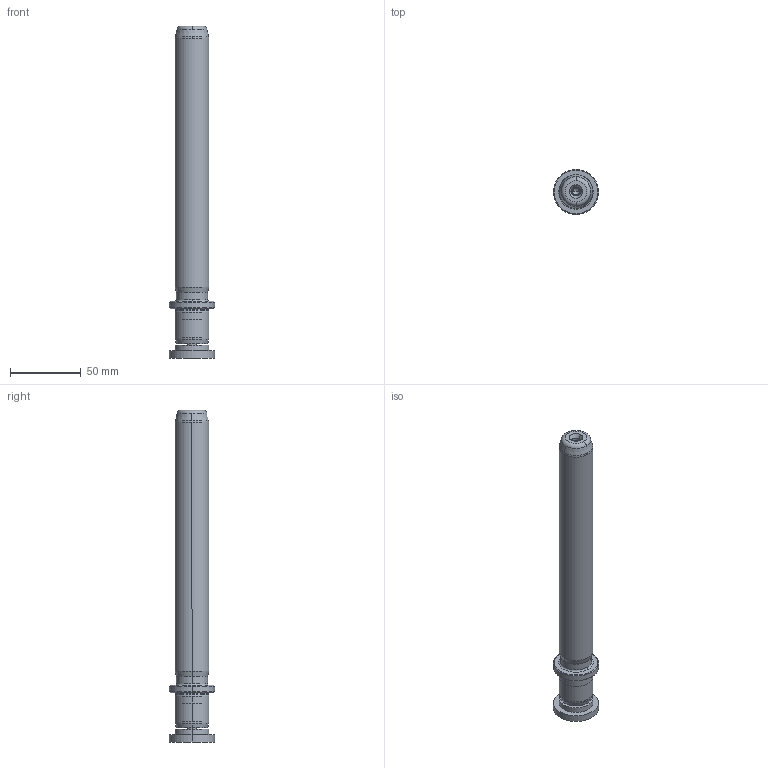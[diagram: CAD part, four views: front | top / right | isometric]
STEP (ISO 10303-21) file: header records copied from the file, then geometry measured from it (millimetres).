
FILE_DESCRIPTION((''),'2;1');
FILE_NAME('P22_024_200.stp','2009-02-02T15:31:35',(''),(''),'Mechanical Desktop 2009','Mechanical Desktop 2009',', , ');
FILE_SCHEMA(('CONFIG_CONTROL_DESIGN'));
Length unit declared in the file: millimetre
Products named in the file (2): Product; blmdl1
Assembly tree (1 placements, depth 2):
  Product
    blmdl1
Bounding box: 32 x 32 x 235 mm (x, y, z)
Volume: 106936 mm3; surface area: 22300.6 mm2
Topology: 3 solids, 3 shells, 99 faces, 237 edges, 149 vertices
Faces by surface type: cylinder 32, cone 28, plane 19, torus 10, bspline 10
Entity records: 3419 total; most frequent: CARTESIAN_POINT 923, DIRECTION 570, ORIENTED_EDGE 466, AXIS2_PLACEMENT_3D 246, EDGE_CURVE 233, CIRCLE 155, VERTEX_POINT 149, EDGE_LOOP 110
